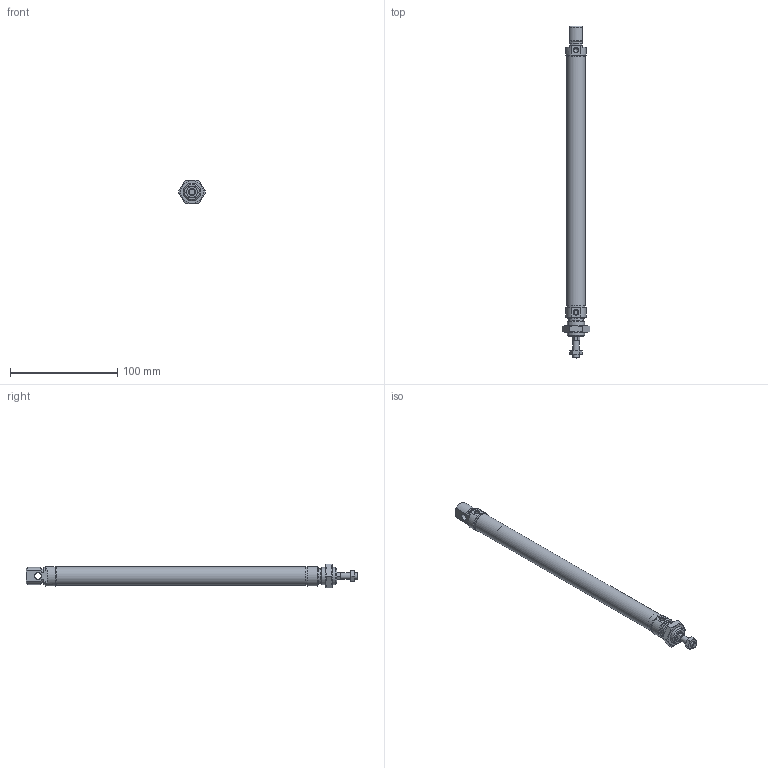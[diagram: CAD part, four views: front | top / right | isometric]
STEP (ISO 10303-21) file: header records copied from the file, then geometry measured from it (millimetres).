
FILE_DESCRIPTION(/* description */ ('Unknown'),/* implementation_level */ '2;1');
FILE_NAME(/* name */ 'RIMO 16_200',/* time_stamp */ '2024-09-02T08:31:16+02:00',/* author */ ('Unknown'),/* organization */ ('Unknown'),/* preprocessor_version */ 'ST-DEVELOPER v16.7',/* originating_system */ 'Solid Edge',/* authorisation */ 'Unknown');
FILE_SCHEMA (('AUTOMOTIVE_DESIGN {1 0 10303 214 3 1 1}'));
Length unit declared in the file: millimetre
Products named in the file (7): RIMO 16_200; Profilrohr; Kolbenstange; Kit_1; Kit_2; Mutter_1; Mutter_2
Assembly tree (6 placements, depth 2):
  RIMO 16_200
    Profilrohr
    Kolbenstange
    Kit_1
    Kit_2
    Mutter_1
    Mutter_2
Bounding box: 25.4 x 309 x 22 mm (x, y, z)
Volume: 33984.9 mm3; surface area: 38661.4 mm2
Topology: 6 solids, 8 shells, 187 faces, 428 edges, 267 vertices
Faces by surface type: plane 83, cone 52, cylinder 35, torus 17
Full cylindrical faces by diameter (mm): 4.12 x2, 4.134 x2, 4.917 x1, 6 x3, 6.5 x1, 7.1 x1, 9 x2, 9.1 x1, 9.5 x1, 11.1 x1, 11.2 x1, 13.7 x1, 14.376 x1, 14.5 x1, 16 x5, 17.2 x2, 17.27 x1
Entity records: 6206 total; most frequent: CARTESIAN_POINT 1083, DIRECTION 774, ORIENTED_EDGE 696, EDGE_CURVE 348, AXIS2_PLACEMENT_3D 337, FACE_BOUND 277, EDGE_LOOP 276, VERTEX_POINT 251
